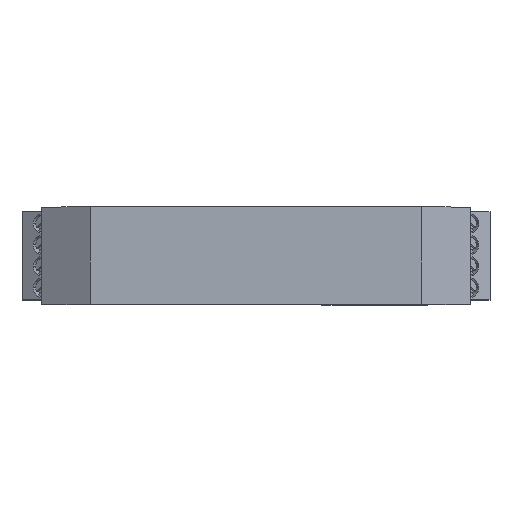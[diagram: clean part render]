
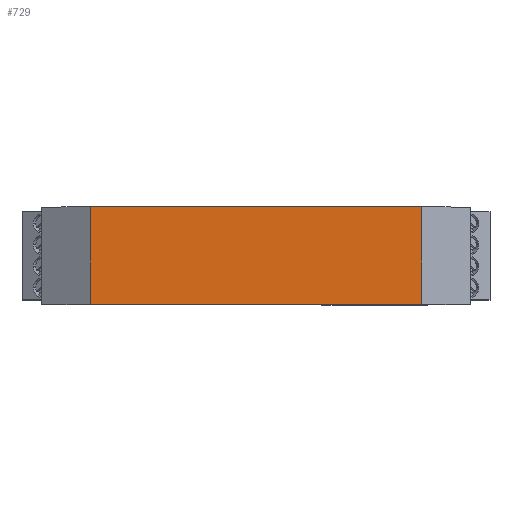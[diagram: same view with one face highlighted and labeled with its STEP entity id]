
A CAD part, top view. The second image highlights one B-rep face of the part: STEP entity #729.
In plain terms, the highlighted planar face has unit normal (0, 0, 1).
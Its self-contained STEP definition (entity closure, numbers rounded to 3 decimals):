
#729=ADVANCED_FACE('',(#1759),#1295,.T.);
#1295=PLANE('',#10877);
#1759=FACE_OUTER_BOUND('',#2291,.T.);
#2291=EDGE_LOOP('',(#3446,#3447,#3448,#3449));
#3446=ORIENTED_EDGE('',*,*,#7270,.T.);
#3447=ORIENTED_EDGE('',*,*,#7341,.F.);
#3448=ORIENTED_EDGE('',*,*,#7196,.T.);
#3449=ORIENTED_EDGE('',*,*,#7342,.F.);
#6124=VERTEX_POINT('',#15284);
#6125=VERTEX_POINT('',#15286);
#6171=VERTEX_POINT('',#15441);
#6172=VERTEX_POINT('',#15443);
#7196=EDGE_CURVE('',#6125,#6124,#8654,.T.);
#7270=EDGE_CURVE('',#6172,#6171,#8723,.T.);
#7341=EDGE_CURVE('',#6125,#6171,#8786,.T.);
#7342=EDGE_CURVE('',#6172,#6124,#8787,.T.);
#8654=LINE('',#15285,#9791);
#8723=LINE('',#15442,#9860);
#8786=LINE('',#15604,#9923);
#8787=LINE('',#15605,#9924);
#9791=VECTOR('',#12106,1.);
#9860=VECTOR('',#12217,1.);
#9923=VECTOR('',#12334,1.);
#9924=VECTOR('',#12335,1.);
#10877=AXIS2_PLACEMENT_3D('',#15606,#12336,#12337);
#12106=DIRECTION('',(-1.,0.,0.));
#12217=DIRECTION('',(1.,0.,0.));
#12334=DIRECTION('',(0.,-1.,0.));
#12335=DIRECTION('',(0.,1.,0.));
#12336=DIRECTION('',(0.,0.,1.));
#12337=DIRECTION('',(0.,-1.,0.));
#15284=CARTESIAN_POINT('',(-38.371,11.25,103.418));
#15285=CARTESIAN_POINT('',(38.37,11.25,103.418));
#15286=CARTESIAN_POINT('',(38.37,11.25,103.418));
#15441=CARTESIAN_POINT('',(38.37,-11.25,103.418));
#15442=CARTESIAN_POINT('',(-38.371,-11.25,103.418));
#15443=CARTESIAN_POINT('',(-38.371,-11.25,103.418));
#15604=CARTESIAN_POINT('',(38.37,11.25,103.418));
#15605=CARTESIAN_POINT('',(-38.371,-11.25,103.418));
#15606=CARTESIAN_POINT('',(-38.371,11.35,103.418));
